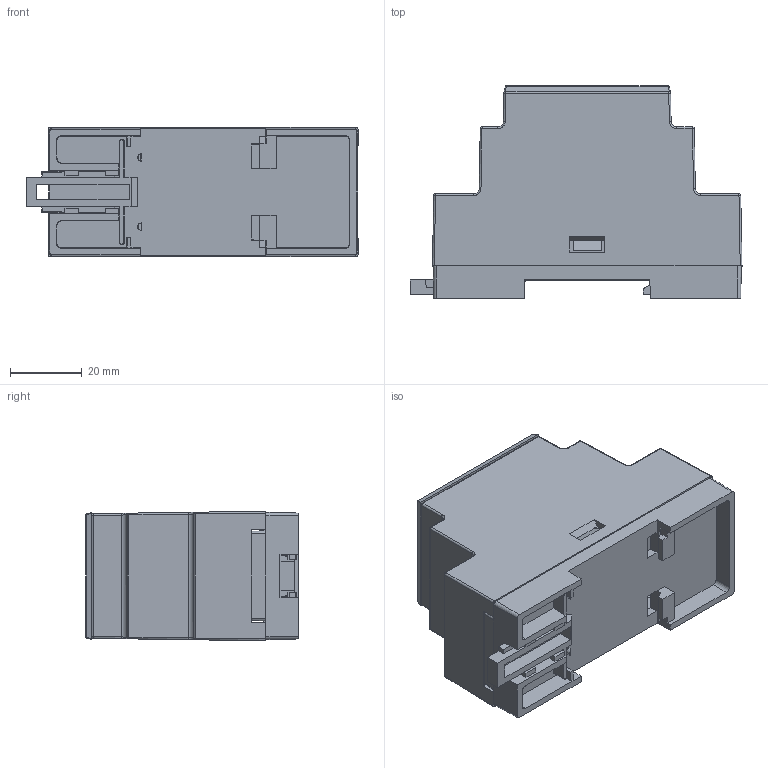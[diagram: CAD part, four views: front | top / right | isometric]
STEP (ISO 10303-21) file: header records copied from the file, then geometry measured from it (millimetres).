
FILE_DESCRIPTION (( 'STEP AP203' ), '1' );
FILE_NAME ('PT102-A.STEP', '2021-11-15T13:09:44', ( '' ), ( '' ), 'SwSTEP 2.0', 'SolidWorks 2021', '' );
FILE_SCHEMA (( 'CONFIG_CONTROL_DESIGN' ));
Length unit declared in the file: millimetre
Products named in the file (5): PT102-A
Assembly tree (4 placements, depth 2):
  PT102-A
    PT102-A
    PT102-A
    PT102-A
    PT102-A
Bounding box: 92.24 x 59.1 x 36 mm (x, y, z)
Volume: 39929.8 mm3; surface area: 41495.2 mm2
Topology: 4 solids, 4 shells, 604 faces, 1614 edges, 1009 vertices
Faces by surface type: plane 382, cylinder 116, bspline 55, sphere 29, cone 22
Entity records: 19452 total; most frequent: CARTESIAN_POINT 4302, ORIENTED_EDGE 3196, DIRECTION 2861, EDGE_CURVE 1598, VECTOR 1237, LINE 1237, VERTEX_POINT 1009, AXIS2_PLACEMENT_3D 812
